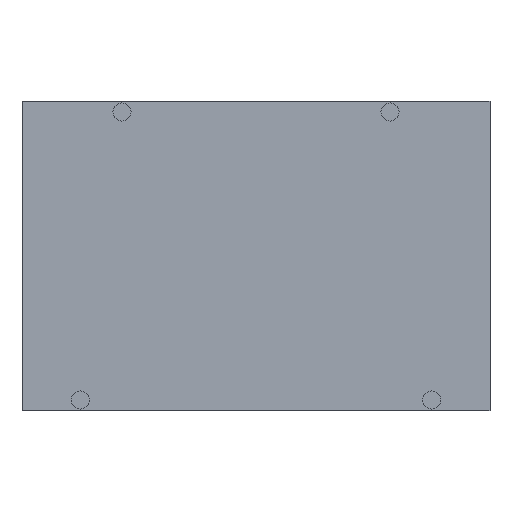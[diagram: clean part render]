
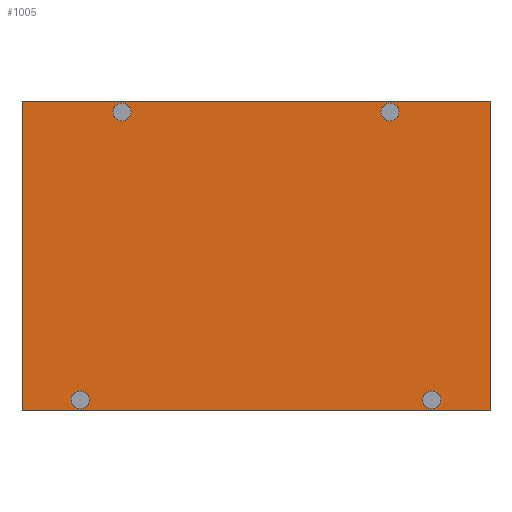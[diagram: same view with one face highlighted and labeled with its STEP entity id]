
A CAD part, front view. The second image highlights one B-rep face of the part: STEP entity #1005.
In plain terms, the highlighted planar face has unit normal (0, -1, 0).
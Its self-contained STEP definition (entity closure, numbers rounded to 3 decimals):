
#1 = ORIENTED_EDGE ( 'NONE', *, *, #584, .F. ) ;
#2 = CARTESIAN_POINT ( 'NONE',  ( -9.675, -14.875, 0.6 ) ) ;
#41 = EDGE_CURVE ( 'NONE', #262, #1133, #114, .T. ) ;
#55 = CARTESIAN_POINT ( 'NONE',  ( -12.875, -14.875, 0. ) ) ;
#65 = DIRECTION ( 'NONE',  ( -1., 0., 0. ) ) ;
#81 = EDGE_CURVE ( 'NONE', #794, #151, #928, .T. ) ;
#108 = CARTESIAN_POINT ( 'NONE',  ( -7.375, -14.875, 16.45 ) ) ;
#113 = VERTEX_POINT ( 'NONE', #451 ) ;
#114 = CIRCLE ( 'NONE', #168, 0.5 ) ;
#115 = DIRECTION ( 'NONE',  ( 0., -1., 0. ) ) ;
#123 = FACE_BOUND ( 'NONE', #897, .T. ) ;
#125 = AXIS2_PLACEMENT_3D ( 'NONE', #594, #115, #774 ) ;
#138 = DIRECTION ( 'NONE',  ( 0., -1., 0. ) ) ;
#149 = DIRECTION ( 'NONE',  ( -1., 0., 0. ) ) ;
#151 = VERTEX_POINT ( 'NONE', #1091 ) ;
#159 = DIRECTION ( 'NONE',  ( -1., 0., 0. ) ) ;
#168 = AXIS2_PLACEMENT_3D ( 'NONE', #108, #1139, #389 ) ;
#188 = EDGE_LOOP ( 'NONE', ( #558, #297, #1162, #208 ) ) ;
#199 = CIRCLE ( 'NONE', #312, 0.5 ) ;
#204 = EDGE_CURVE ( 'NONE', #309, #896, #552, .T. ) ;
#208 = ORIENTED_EDGE ( 'NONE', *, *, #204, .T. ) ;
#219 = VERTEX_POINT ( 'NONE', #345 ) ;
#236 = CARTESIAN_POINT ( 'NONE',  ( -7.375, -14.875, 16.45 ) ) ;
#245 = CARTESIAN_POINT ( 'NONE',  ( -12.875, -14.875, 17.05 ) ) ;
#255 = AXIS2_PLACEMENT_3D ( 'NONE', #417, #1176, #520 ) ;
#262 = VERTEX_POINT ( 'NONE', #509 ) ;
#279 = LINE ( 'NONE', #372, #387 ) ;
#291 = CARTESIAN_POINT ( 'NONE',  ( 9.675, -14.875, 0.6 ) ) ;
#297 = ORIENTED_EDGE ( 'NONE', *, *, #624, .F. ) ;
#298 = CARTESIAN_POINT ( 'NONE',  ( -12.875, -14.875, 17.05 ) ) ;
#309 = VERTEX_POINT ( 'NONE', #298 ) ;
#312 = AXIS2_PLACEMENT_3D ( 'NONE', #236, #138, #149 ) ;
#323 = CARTESIAN_POINT ( 'NONE',  ( 12.875, -14.875, 17.05 ) ) ;
#328 = PLANE ( 'NONE',  #815 ) ;
#332 = FACE_BOUND ( 'NONE', #858, .T. ) ;
#341 = CARTESIAN_POINT ( 'NONE',  ( 9.675, -14.875, 0.6 ) ) ;
#345 = CARTESIAN_POINT ( 'NONE',  ( -10.175, -14.875, 0.6 ) ) ;
#346 = DIRECTION ( 'NONE',  ( 0., 0., -1. ) ) ;
#372 = CARTESIAN_POINT ( 'NONE',  ( -12.875, -14.875, 17.05 ) ) ;
#380 = DIRECTION ( 'NONE',  ( 0., -1., 0. ) ) ;
#387 = VECTOR ( 'NONE', #1122, 1000. ) ;
#389 = DIRECTION ( 'NONE',  ( -1., 0., 0. ) ) ;
#394 = ORIENTED_EDGE ( 'NONE', *, *, #819, .F. ) ;
#409 = VECTOR ( 'NONE', #457, 1000. ) ;
#417 = CARTESIAN_POINT ( 'NONE',  ( -9.675, -14.875, 0.6 ) ) ;
#418 = FACE_BOUND ( 'NONE', #698, .T. ) ;
#432 = CARTESIAN_POINT ( 'NONE',  ( 7.375, -14.875, 16.45 ) ) ;
#446 = VERTEX_POINT ( 'NONE', #601 ) ;
#451 = CARTESIAN_POINT ( 'NONE',  ( -9.175, -14.875, 0.6 ) ) ;
#453 = CIRCLE ( 'NONE', #125, 0.5 ) ;
#457 = DIRECTION ( 'NONE',  ( 1., 0., 0. ) ) ;
#505 = DIRECTION ( 'NONE',  ( 0., -1., 0. ) ) ;
#509 = CARTESIAN_POINT ( 'NONE',  ( -6.875, -14.875, 16.45 ) ) ;
#516 = ORIENTED_EDGE ( 'NONE', *, *, #81, .F. ) ;
#519 = EDGE_CURVE ( 'NONE', #1133, #262, #199, .T. ) ;
#520 = DIRECTION ( 'NONE',  ( -1., 0., 0. ) ) ;
#533 = LINE ( 'NONE', #926, #409 ) ;
#540 = ORIENTED_EDGE ( 'NONE', *, *, #874, .F. ) ;
#544 = EDGE_LOOP ( 'NONE', ( #540, #394 ) ) ;
#552 = LINE ( 'NONE', #245, #910 ) ;
#558 = ORIENTED_EDGE ( 'NONE', *, *, #1088, .T. ) ;
#559 = DIRECTION ( 'NONE',  ( 0., -1., 0. ) ) ;
#563 = ORIENTED_EDGE ( 'NONE', *, *, #1052, .F. ) ;
#569 = FACE_OUTER_BOUND ( 'NONE', #188, .T. ) ;
#584 = EDGE_CURVE ( 'NONE', #113, #219, #999, .T. ) ;
#594 = CARTESIAN_POINT ( 'NONE',  ( 7.375, -14.875, 16.45 ) ) ;
#601 = CARTESIAN_POINT ( 'NONE',  ( 12.875, -14.875, 0. ) ) ;
#618 = ORIENTED_EDGE ( 'NONE', *, *, #1007, .F. ) ;
#624 = EDGE_CURVE ( 'NONE', #1069, #446, #724, .T. ) ;
#626 = CARTESIAN_POINT ( 'NONE',  ( -12.875, -14.875, 17.05 ) ) ;
#659 = DIRECTION ( 'NONE',  ( -1., 0., 0. ) ) ;
#677 = CARTESIAN_POINT ( 'NONE',  ( 9.175, -14.875, 0.6 ) ) ;
#684 = CIRCLE ( 'NONE', #735, 0.5 ) ;
#698 = EDGE_LOOP ( 'NONE', ( #945, #842 ) ) ;
#724 = LINE ( 'NONE', #323, #1189 ) ;
#726 = DIRECTION ( 'NONE',  ( 0., 1., 0. ) ) ;
#735 = AXIS2_PLACEMENT_3D ( 'NONE', #2, #559, #659 ) ;
#774 = DIRECTION ( 'NONE',  ( -1., 0., 0. ) ) ;
#794 = VERTEX_POINT ( 'NONE', #677 ) ;
#813 = VERTEX_POINT ( 'NONE', #1054 ) ;
#815 = AXIS2_PLACEMENT_3D ( 'NONE', #626, #726, #65 ) ;
#817 = DIRECTION ( 'NONE',  ( 0., 0., -1. ) ) ;
#819 = EDGE_CURVE ( 'NONE', #813, #1146, #453, .T. ) ;
#842 = ORIENTED_EDGE ( 'NONE', *, *, #41, .F. ) ;
#844 = CARTESIAN_POINT ( 'NONE',  ( 12.875, -14.875, 17.05 ) ) ;
#850 = CARTESIAN_POINT ( 'NONE',  ( 6.875, -14.875, 16.45 ) ) ;
#858 = EDGE_LOOP ( 'NONE', ( #563, #1 ) ) ;
#865 = FACE_BOUND ( 'NONE', #544, .T. ) ;
#874 = EDGE_CURVE ( 'NONE', #1146, #813, #1024, .T. ) ;
#892 = DIRECTION ( 'NONE',  ( -1., 0., 0. ) ) ;
#896 = VERTEX_POINT ( 'NONE', #55 ) ;
#897 = EDGE_LOOP ( 'NONE', ( #516, #618 ) ) ;
#907 = DIRECTION ( 'NONE',  ( 0., -1., 0. ) ) ;
#910 = VECTOR ( 'NONE', #817, 1000. ) ;
#926 = CARTESIAN_POINT ( 'NONE',  ( -12.875, -14.875, 0. ) ) ;
#928 = CIRCLE ( 'NONE', #982, 0.5 ) ;
#945 = ORIENTED_EDGE ( 'NONE', *, *, #519, .F. ) ;
#947 = CARTESIAN_POINT ( 'NONE',  ( -7.875, -14.875, 16.45 ) ) ;
#975 = CIRCLE ( 'NONE', #1191, 0.5 ) ;
#982 = AXIS2_PLACEMENT_3D ( 'NONE', #291, #380, #1131 ) ;
#999 = CIRCLE ( 'NONE', #255, 0.5 ) ;
#1005 = ADVANCED_FACE ( 'NONE', ( #332, #123, #865, #418, #569 ), #328, .F. ) ;
#1007 = EDGE_CURVE ( 'NONE', #151, #794, #975, .T. ) ;
#1024 = CIRCLE ( 'NONE', #1127, 0.5 ) ;
#1052 = EDGE_CURVE ( 'NONE', #219, #113, #684, .T. ) ;
#1054 = CARTESIAN_POINT ( 'NONE',  ( 7.875, -14.875, 16.45 ) ) ;
#1069 = VERTEX_POINT ( 'NONE', #844 ) ;
#1088 = EDGE_CURVE ( 'NONE', #896, #446, #533, .T. ) ;
#1091 = CARTESIAN_POINT ( 'NONE',  ( 10.175, -14.875, 0.6 ) ) ;
#1110 = EDGE_CURVE ( 'NONE', #309, #1069, #279, .T. ) ;
#1122 = DIRECTION ( 'NONE',  ( 1., 0., 0. ) ) ;
#1127 = AXIS2_PLACEMENT_3D ( 'NONE', #432, #505, #892 ) ;
#1131 = DIRECTION ( 'NONE',  ( -1., 0., 0. ) ) ;
#1133 = VERTEX_POINT ( 'NONE', #947 ) ;
#1139 = DIRECTION ( 'NONE',  ( 0., -1., 0. ) ) ;
#1146 = VERTEX_POINT ( 'NONE', #850 ) ;
#1162 = ORIENTED_EDGE ( 'NONE', *, *, #1110, .F. ) ;
#1176 = DIRECTION ( 'NONE',  ( 0., -1., 0. ) ) ;
#1189 = VECTOR ( 'NONE', #346, 1000. ) ;
#1191 = AXIS2_PLACEMENT_3D ( 'NONE', #341, #907, #159 ) ;
